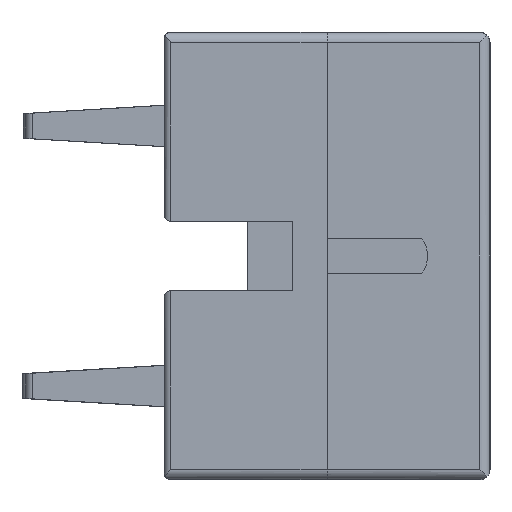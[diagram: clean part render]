
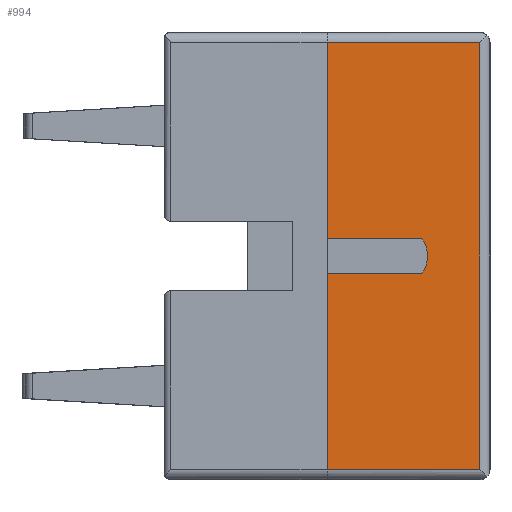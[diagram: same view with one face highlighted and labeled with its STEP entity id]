
A CAD part, left-side view. The second image highlights one B-rep face of the part: STEP entity #994.
In plain terms, the highlighted planar face has unit normal (-1, 0, 0) as drawn and (1, 0, 0) by its records, which use the part's own axes.
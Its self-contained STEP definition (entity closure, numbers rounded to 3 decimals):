
#994=ADVANCED_FACE('',(#1655),#1323,.T.);
#1323=PLANE('',#8118);
#1655=FACE_OUTER_BOUND('',#2044,.T.);
#2044=EDGE_LOOP('',(#3528,#3529,#3530,#3531,#3532,#3533,#3534,#3535));
#2249=CIRCLE('',#8117,0.8);
#3528=ORIENTED_EDGE('',*,*,#5573,.T.);
#3529=ORIENTED_EDGE('',*,*,#5656,.F.);
#3530=ORIENTED_EDGE('',*,*,#5576,.F.);
#3531=ORIENTED_EDGE('',*,*,#5657,.T.);
#3532=ORIENTED_EDGE('',*,*,#5658,.T.);
#3533=ORIENTED_EDGE('',*,*,#5659,.T.);
#3534=ORIENTED_EDGE('',*,*,#5660,.T.);
#3535=ORIENTED_EDGE('',*,*,#5661,.T.);
#4708=VERTEX_POINT('',#11426);
#4712=VERTEX_POINT('',#11434);
#4715=VERTEX_POINT('',#11441);
#4716=VERTEX_POINT('',#11443);
#4785=VERTEX_POINT('',#11601);
#4786=VERTEX_POINT('',#11603);
#4787=VERTEX_POINT('',#11605);
#4788=VERTEX_POINT('',#11607);
#5573=EDGE_CURVE('',#4708,#4712,#6538,.T.);
#5576=EDGE_CURVE('',#4715,#4716,#6541,.T.);
#5656=EDGE_CURVE('',#4716,#4712,#2249,.T.);
#5657=EDGE_CURVE('',#4715,#4785,#6617,.T.);
#5658=EDGE_CURVE('',#4785,#4786,#6618,.T.);
#5659=EDGE_CURVE('',#4786,#4787,#6619,.T.);
#5660=EDGE_CURVE('',#4787,#4788,#6620,.T.);
#5661=EDGE_CURVE('',#4788,#4708,#6621,.T.);
#6538=LINE('',#11435,#7459);
#6541=LINE('',#11442,#7462);
#6617=LINE('',#11600,#7538);
#6618=LINE('',#11602,#7539);
#6619=LINE('',#11604,#7540);
#6620=LINE('',#11606,#7541);
#6621=LINE('',#11608,#7542);
#7459=VECTOR('',#9359,1.);
#7462=VECTOR('',#9364,1.);
#7538=VECTOR('',#9466,1.);
#7539=VECTOR('',#9467,1.);
#7540=VECTOR('',#9468,1.);
#7541=VECTOR('',#9469,1.);
#7542=VECTOR('',#9470,1.);
#8117=AXIS2_PLACEMENT_3D('',#11599,#9464,#9465);
#8118=AXIS2_PLACEMENT_3D('',#11609,#9471,#9472);
#9359=DIRECTION('',(0.,0.,-1.));
#9364=DIRECTION('',(0.,0.,-1.));
#9464=DIRECTION('',(1.,0.,0.));
#9465=DIRECTION('',(0.,-1.,0.));
#9466=DIRECTION('',(0.,-1.,0.));
#9467=DIRECTION('',(0.,0.,-1.));
#9468=DIRECTION('',(0.,1.,0.));
#9469=DIRECTION('',(0.,0.,1.));
#9470=DIRECTION('',(0.,-1.,0.));
#9471=DIRECTION('',(1.,0.,0.));
#9472=DIRECTION('',(0.,0.,1.));
#11426=CARTESIAN_POINT('',(30.1,6.95,4.7));
#11434=CARTESIAN_POINT('',(30.1,6.95,1.976));
#11435=CARTESIAN_POINT('',(30.1,6.95,4.7));
#11441=CARTESIAN_POINT('',(30.1,5.95,4.7));
#11442=CARTESIAN_POINT('',(30.1,5.95,4.7));
#11443=CARTESIAN_POINT('',(30.1,5.95,1.976));
#11599=CARTESIAN_POINT('',(30.1,6.45,2.6));
#11600=CARTESIAN_POINT('',(30.1,6.45,4.7));
#11601=CARTESIAN_POINT('',(30.1,0.3,4.7));
#11602=CARTESIAN_POINT('',(30.1,0.3,0.));
#11603=CARTESIAN_POINT('',(30.1,0.3,0.3));
#11604=CARTESIAN_POINT('',(30.1,6.45,0.3));
#11605=CARTESIAN_POINT('',(30.1,12.6,0.3));
#11606=CARTESIAN_POINT('',(30.1,12.6,0.));
#11607=CARTESIAN_POINT('',(30.1,12.6,4.7));
#11608=CARTESIAN_POINT('',(30.1,6.45,4.7));
#11609=CARTESIAN_POINT('',(30.1,6.45,0.));
